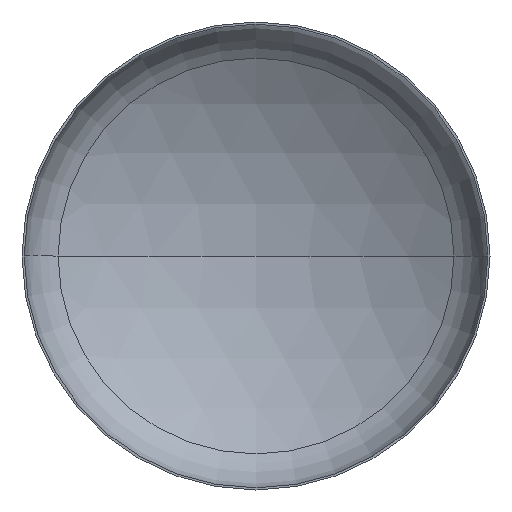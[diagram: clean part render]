
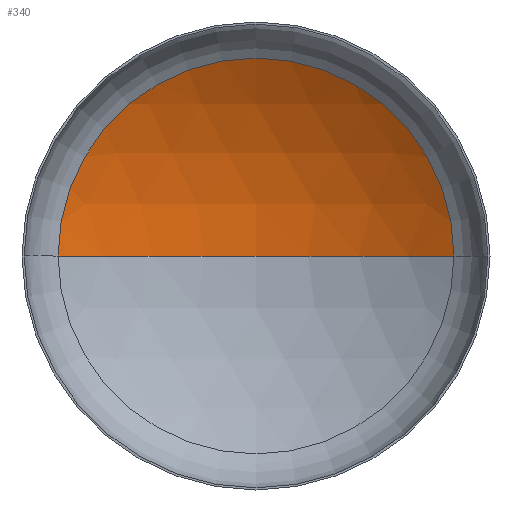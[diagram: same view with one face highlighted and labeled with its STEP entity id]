
A CAD part, front view. The second image highlights one B-rep face of the part: STEP entity #340.
In plain terms, the highlighted spherical face has radius 1040 mm.
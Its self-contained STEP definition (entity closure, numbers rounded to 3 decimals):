
#2 = CIRCLE ( 'NONE', #27, 1040. ) ;
#10 = ORIENTED_EDGE ( 'NONE', *, *, #351, .T. ) ;
#19 = EDGE_LOOP ( 'NONE', ( #34, #294, #10 ) ) ;
#27 = AXIS2_PLACEMENT_3D ( 'NONE', #236, #392, #188 ) ;
#28 = AXIS2_PLACEMENT_3D ( 'NONE', #217, #147, #321 ) ;
#29 = AXIS2_PLACEMENT_3D ( 'NONE', #153, #151, #152 ) ;
#31 = CIRCLE ( 'NONE', #29, 549.714 ) ;
#33 = AXIS2_PLACEMENT_3D ( 'NONE', #180, #181, #398 ) ;
#34 = ORIENTED_EDGE ( 'NONE', *, *, #357, .F. ) ;
#129 = VERTEX_POINT ( 'NONE', #207 ) ;
#146 = VERTEX_POINT ( 'NONE', #192 ) ;
#147 = DIRECTION ( 'NONE',  ( 0., 0., -1. ) ) ;
#151 = DIRECTION ( 'NONE',  ( 0., -1., 0. ) ) ;
#152 = DIRECTION ( 'NONE',  ( 1., 0., 0. ) ) ;
#153 = CARTESIAN_POINT ( 'NONE',  ( 0., 189.778, 0. ) ) ;
#168 = VERTEX_POINT ( 'NONE', #215 ) ;
#176 = CIRCLE ( 'NONE', #28, 1040. ) ;
#180 = CARTESIAN_POINT ( 'NONE',  ( 0., -693.067, 0. ) ) ;
#181 = DIRECTION ( 'NONE',  ( 0., 0., -1. ) ) ;
#187 = FACE_OUTER_BOUND ( 'NONE', #19, .T. ) ;
#188 = DIRECTION ( 'NONE',  ( 1., 0., 0. ) ) ;
#192 = CARTESIAN_POINT ( 'NONE',  ( -549.714, 189.778, 0. ) ) ;
#207 = CARTESIAN_POINT ( 'NONE',  ( 549.714, 189.778, 0. ) ) ;
#215 = CARTESIAN_POINT ( 'NONE',  ( 0., 346.933, 0. ) ) ;
#217 = CARTESIAN_POINT ( 'NONE',  ( 0., -693.067, 0. ) ) ;
#236 = CARTESIAN_POINT ( 'NONE',  ( 0., -693.067, 0. ) ) ;
#294 = ORIENTED_EDGE ( 'NONE', *, *, #353, .T. ) ;
#298 = SPHERICAL_SURFACE ( 'NONE', #33, 1040. ) ;
#321 = DIRECTION ( 'NONE',  ( -1., 0., 0. ) ) ;
#340 = ADVANCED_FACE ( 'NONE', ( #187 ), #298, .F. ) ;
#351 = EDGE_CURVE ( 'NONE', #129, #146, #31, .T. ) ;
#353 = EDGE_CURVE ( 'NONE', #168, #129, #176, .T. ) ;
#357 = EDGE_CURVE ( 'NONE', #168, #146, #2, .T. ) ;
#392 = DIRECTION ( 'NONE',  ( 0., 0., 1. ) ) ;
#398 = DIRECTION ( 'NONE',  ( -1., 0., 0. ) ) ;
